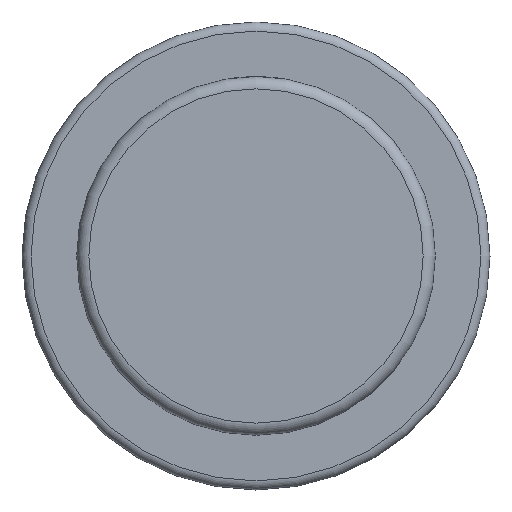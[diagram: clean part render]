
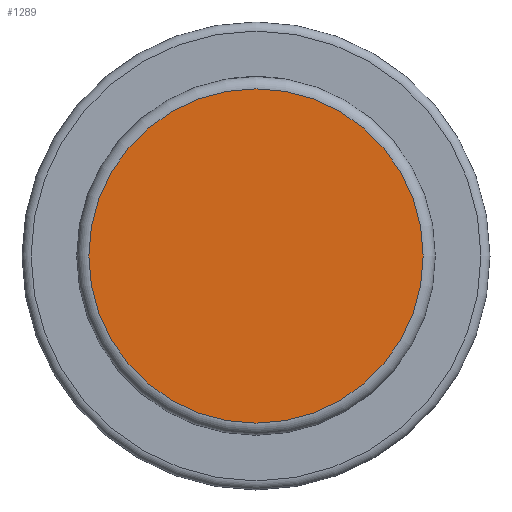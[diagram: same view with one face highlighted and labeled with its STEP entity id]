
A CAD part, front view. The second image highlights one B-rep face of the part: STEP entity #1289.
In plain terms, the highlighted planar face has unit normal (0, -1, 0).
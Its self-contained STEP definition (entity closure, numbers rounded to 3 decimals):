
#198=PLANE('',#1389);
#265=FACE_OUTER_BOUND('',#335,.T.);
#335=EDGE_LOOP('',(#1165));
#616=CIRCLE('',#1390,27.5);
#733=VERTEX_POINT('',#2119);
#882=EDGE_CURVE('',#733,#733,#616,.T.);
#1165=ORIENTED_EDGE('',*,*,#882,.T.);
#1289=ADVANCED_FACE('',(#265),#198,.T.);
#1389=AXIS2_PLACEMENT_3D('',#2118,#1688,#1689);
#1390=AXIS2_PLACEMENT_3D('',#2120,#1690,#1691);
#1688=DIRECTION('center_axis',(0.,-1.,0.));
#1689=DIRECTION('ref_axis',(0.,0.,-1.));
#1690=DIRECTION('center_axis',(0.,-1.,0.));
#1691=DIRECTION('ref_axis',(1.,0.,0.));
#2118=CARTESIAN_POINT('Origin',(0.,0.,0.));
#2119=CARTESIAN_POINT('',(0.,0.,27.5));
#2120=CARTESIAN_POINT('Origin',(0.,0.,0.));
